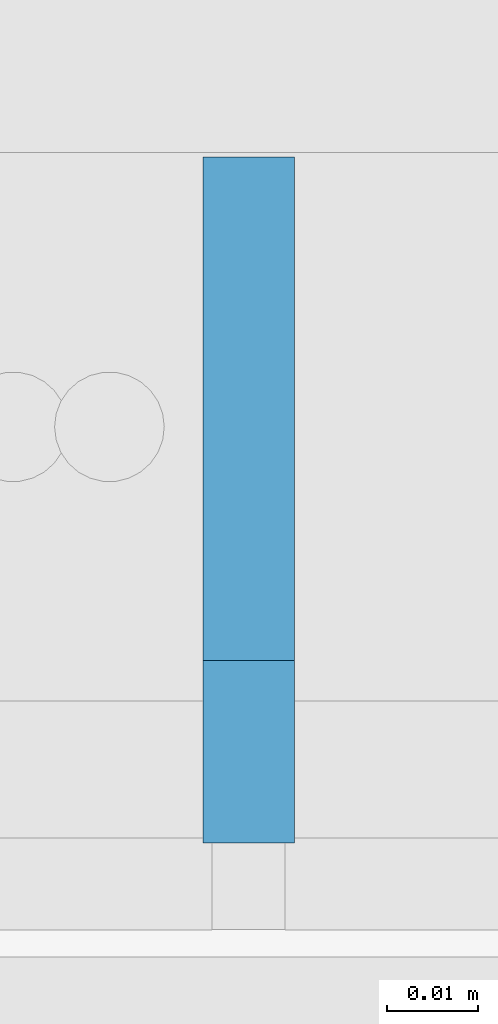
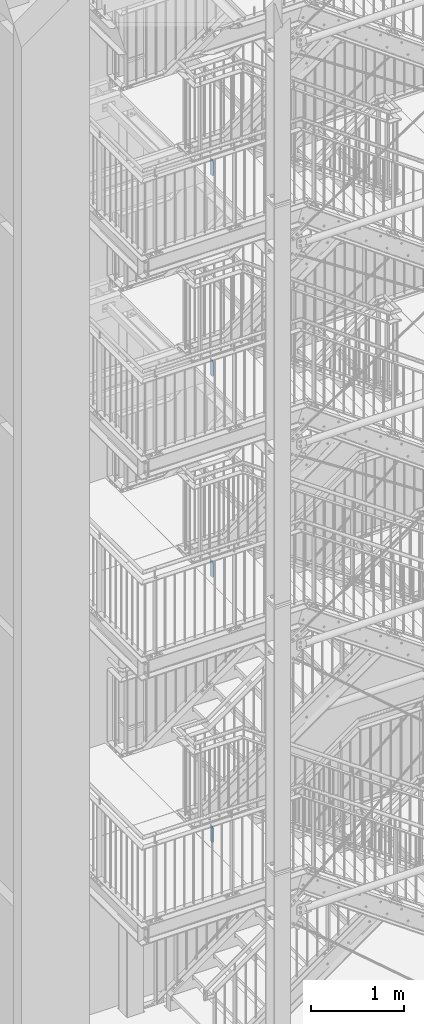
# One storey, part 162 of 821: 4 plates, 8 openings.
"""IFC2X3 building model written with IfcOpenShell, lengths in millimetres."""

from ifc_helpers import new_model, entity, si_unit, converted_unit, frame, origin, origin_with_axes, place, context, project, spatial, polyline, outline, extrude, material, layer, layer_set, element, save


model = new_model("IFC2X3")

# Units and contexts
model_context = context("Model", 3, precision=1e-09, world=origin_with_axes())
ifc_project = project(units=[si_unit("LENGTHUNIT", "METRE", prefix="MILLI"), si_unit("AREAUNIT", "SQUARE_METRE"), si_unit("VOLUMEUNIT", "CUBIC_METRE"), converted_unit("PLANEANGLEUNIT", "DEGREE", entity("IfcPlaneAngleMeasure", 0.01745329), si_unit("PLANEANGLEUNIT", "RADIAN"), dimensions=[0, 0, 0, 0, 0, 0, 0])], contexts=[model_context])

# Site, building, storey
site_placement = place(None, origin_with_axes())
site = spatial("IfcSite", under=ifc_project, at=site_placement, Name="Cnopf'sche Kinderklinik", CompositionType="ELEMENT")
building_placement = place(site_placement, origin_with_axes())
building = spatial("IfcBuilding", under=site, at=building_placement, Name="Struktur 1", CompositionType="ELEMENT")
storey_placement = place(building_placement, origin_with_axes())
storey = spatial("IfcBuildingStorey", under=building, at=storey_placement, Name="Default Storey", CompositionType="ELEMENT", Elevation=0.0)

# Plate, openings
ifc_material = material(Name="S235JR")
ifc_layer = layer(ifc_material, 10.0)
ifc_layer_set = layer_set([ifc_layer], Name="S235JR")
plate_1_placement = place(None, frame((4851.713402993, 5821.236971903, 3835.855265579), z_axis=(1.0, 0.0, 0.0), x_axis=(0.0, -0.996815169, -0.079746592)))
plate_1 = element("IfcPlate", 1, at=plate_1_placement, inside=storey, material=ifc_layer_set, Name="Stiffener#1", ObjectType="Stiffener#1", context=model_context, shape_type="SweptSolid", body=[
    extrude(outline(polyline([(0.0, 0.0), (75.239625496, 0.0), (91.644322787, 205.05517107), (17.361672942, 217.017159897), (0.0, 0.0)])), origin_with_axes(), (0.0, 0.0, 1.0), 10.0),
])
opening_1_placement = place(plate_1_placement, frame((0.0, 0.0, -0.01), z_axis=(0.0, 0.0, 1.0), x_axis=(1.0, 0.0, 0.0)))
element("IfcOpeningElement", 2, at=opening_1_placement, cuts=plate_1, ObjectType="Opening", context=model_context, shape_type="SweptSolid", body=[
    extrude(outline(polyline([(91.644322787, 205.05517107), (71.898703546, 208.23487558), (90.049390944, 185.118867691), (91.644322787, 205.05517107)])), origin(), (0.0, 0.0, 1.0), 10.02),
])
opening_2_placement = place(plate_1_placement, frame((0.0, 0.0, -0.01), z_axis=(0.0, 0.0, 1.0), x_axis=(1.0, 0.0, 0.0)))
element("IfcOpeningElement", 3, at=opening_2_placement, cuts=plate_1, ObjectType="Opening", context=model_context, shape_type="SweptSolid", body=[
    extrude(outline(polyline([(75.239625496, 0.0), (76.83455734, 19.936303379), (55.239625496, 0.0), (75.239625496, 0.0)])), origin(), (0.0, 0.0, 1.0), 10.02),
])

plate_2_placement = place(None, frame((4851.713402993, 5821.236971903, 7308.855265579), z_axis=(1.0, 0.0, 0.0), x_axis=(0.0, -0.996815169, -0.079746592)))
plate_2 = element("IfcPlate", 4, at=plate_2_placement, inside=storey, material=ifc_layer_set, Name="Stiffener#1", ObjectType="Stiffener#1", context=model_context, shape_type="SweptSolid", body=[
    extrude(outline(polyline([(0.0, 0.0), (75.239625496, 0.0), (91.644322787, 205.05517107), (17.361672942, 217.017159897), (0.0, 0.0)])), origin_with_axes(), (0.0, 0.0, 1.0), 10.0),
])
opening_3_placement = place(plate_2_placement, frame((0.0, 0.0, -0.01), z_axis=(0.0, 0.0, 1.0), x_axis=(1.0, 0.0, 0.0)))
element("IfcOpeningElement", 5, at=opening_3_placement, cuts=plate_2, ObjectType="Opening", context=model_context, shape_type="SweptSolid", body=[
    extrude(outline(polyline([(91.644322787, 205.05517107), (71.898703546, 208.23487558), (90.049390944, 185.118867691), (91.644322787, 205.05517107)])), origin(), (0.0, 0.0, 1.0), 10.02),
])
opening_4_placement = place(plate_2_placement, frame((0.0, 0.0, -0.01), z_axis=(0.0, 0.0, 1.0), x_axis=(1.0, 0.0, 0.0)))
element("IfcOpeningElement", 6, at=opening_4_placement, cuts=plate_2, ObjectType="Opening", context=model_context, shape_type="SweptSolid", body=[
    extrude(outline(polyline([(75.239625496, 0.0), (76.83455734, 19.936303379), (55.239625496, 0.0), (75.239625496, 0.0)])), origin(), (0.0, 0.0, 1.0), 10.02),
])

plate_3_placement = place(None, frame((4851.713402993, 5821.236971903, 9940.855265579), z_axis=(1.0, 0.0, 0.0), x_axis=(0.0, -0.996815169, -0.079746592)))
plate_3 = element("IfcPlate", 7, at=plate_3_placement, inside=storey, material=ifc_layer_set, Name="Stiffener#1", ObjectType="Stiffener#1", context=model_context, shape_type="SweptSolid", body=[
    extrude(outline(polyline([(0.0, 0.0), (75.239625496, 0.0), (91.644322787, 205.05517107), (17.361672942, 217.017159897), (0.0, 0.0)])), origin_with_axes(), (0.0, 0.0, 1.0), 10.0),
])
opening_5_placement = place(plate_3_placement, frame((0.0, 0.0, -0.01), z_axis=(0.0, 0.0, 1.0), x_axis=(1.0, 0.0, 0.0)))
element("IfcOpeningElement", 8, at=opening_5_placement, cuts=plate_3, ObjectType="Opening", context=model_context, shape_type="SweptSolid", body=[
    extrude(outline(polyline([(91.644322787, 205.05517107), (71.898703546, 208.23487558), (90.049390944, 185.118867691), (91.644322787, 205.05517107)])), origin(), (0.0, 0.0, 1.0), 10.02),
])
opening_6_placement = place(plate_3_placement, frame((0.0, 0.0, -0.01), z_axis=(0.0, 0.0, 1.0), x_axis=(1.0, 0.0, 0.0)))
element("IfcOpeningElement", 9, at=opening_6_placement, cuts=plate_3, ObjectType="Opening", context=model_context, shape_type="SweptSolid", body=[
    extrude(outline(polyline([(75.239625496, 0.0), (76.83455734, 19.936303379), (55.239625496, 0.0), (75.239625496, 0.0)])), origin(), (0.0, 0.0, 1.0), 10.02),
])

plate_4_placement = place(None, frame((4851.713402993, 5821.236971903, 12567.855265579), z_axis=(1.0, 0.0, 0.0), x_axis=(0.0, -0.996815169, -0.079746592)))
plate_4 = element("IfcPlate", 10, at=plate_4_placement, inside=storey, material=ifc_layer_set, Name="Stiffener#1", ObjectType="Stiffener#1", context=model_context, shape_type="SweptSolid", body=[
    extrude(outline(polyline([(0.0, 0.0), (75.239625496, 0.0), (91.644322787, 205.05517107), (17.361672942, 217.017159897), (0.0, 0.0)])), origin_with_axes(), (0.0, 0.0, 1.0), 10.0),
])
opening_7_placement = place(plate_4_placement, frame((0.0, 0.0, -0.01), z_axis=(0.0, 0.0, 1.0), x_axis=(1.0, 0.0, 0.0)))
element("IfcOpeningElement", 11, at=opening_7_placement, cuts=plate_4, ObjectType="Opening", context=model_context, shape_type="SweptSolid", body=[
    extrude(outline(polyline([(91.644322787, 205.05517107), (71.898703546, 208.23487558), (90.049390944, 185.118867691), (91.644322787, 205.05517107)])), origin(), (0.0, 0.0, 1.0), 10.02),
])
opening_8_placement = place(plate_4_placement, frame((0.0, 0.0, -0.01), z_axis=(0.0, 0.0, 1.0), x_axis=(1.0, 0.0, 0.0)))
element("IfcOpeningElement", 12, at=opening_8_placement, cuts=plate_4, ObjectType="Opening", context=model_context, shape_type="SweptSolid", body=[
    extrude(outline(polyline([(75.239625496, 0.0), (76.83455734, 19.936303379), (55.239625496, 0.0), (75.239625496, 0.0)])), origin(), (0.0, 0.0, 1.0), 10.02),
])

save(model, "model.ifc")
